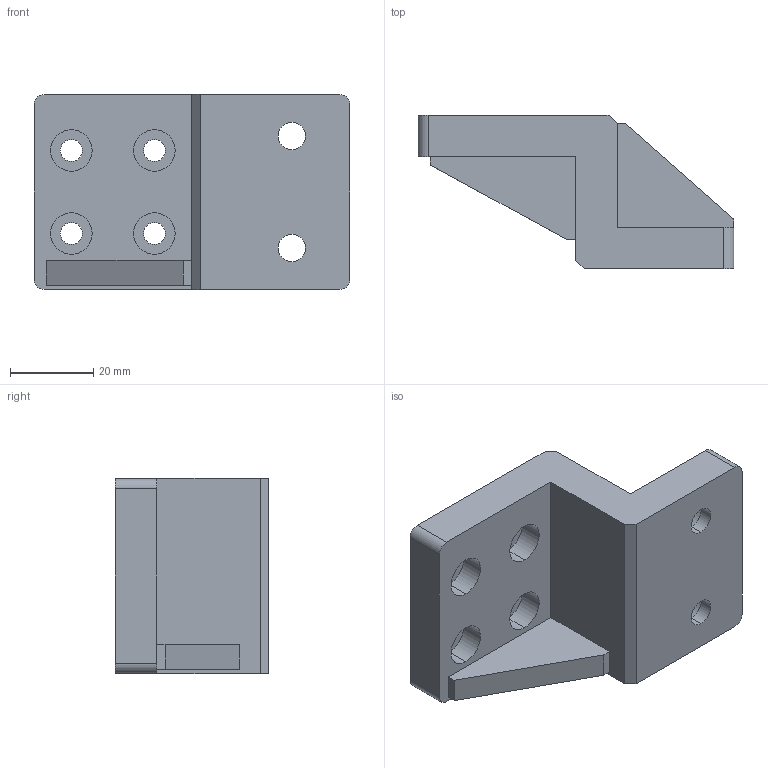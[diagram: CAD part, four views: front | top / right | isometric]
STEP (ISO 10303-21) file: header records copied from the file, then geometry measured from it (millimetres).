
FILE_DESCRIPTION (( 'STEP AP214' ), '1' );
FILE_NAME ('GZ29.14_V1支撑块.STEP', '2021-05-08T03:15:01', ( '微软中国' ), ( 'Microsoft' ), 'SwSTEP 2.0', 'SolidWorks 2017', '' );
FILE_SCHEMA (( 'AUTOMOTIVE_DESIGN' ));
Length unit declared in the file: millimetre
Products named in the file (1): GZ29.14_V1盓傅輸
Bounding box: 76.1 x 37 x 47 mm (x, y, z)
Volume: 49365.9 mm3; surface area: 16555.2 mm2
Topology: 3 solids, 3 shells, 60 faces, 144 edges, 96 vertices
Faces by surface type: plane 32, cylinder 28
Entity records: 1840 total; most frequent: DIRECTION 322, CARTESIAN_POINT 301, ORIENTED_EDGE 288, EDGE_CURVE 144, AXIS2_PLACEMENT_3D 117, VERTEX_POINT 96, VECTOR 88, LINE 88
